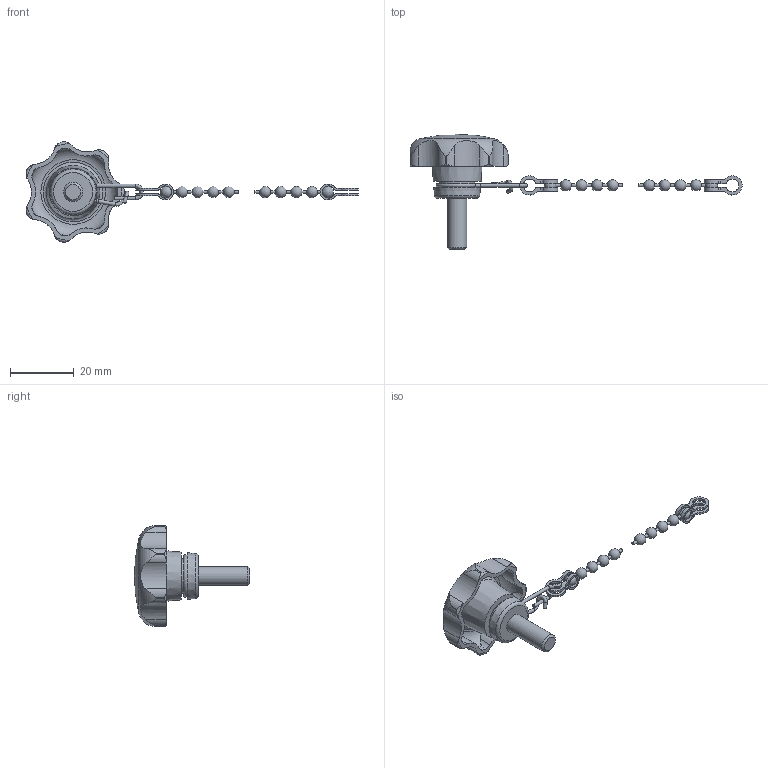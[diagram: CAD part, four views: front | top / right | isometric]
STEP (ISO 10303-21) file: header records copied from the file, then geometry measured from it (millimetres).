
FILE_DESCRIPTION( ( 'STEP AP203' ), '1' );
FILE_NAME( 'C:/Temp/Ganter_Step_05_03_2020/data/2_2/gn_6336_13/gn_6336_13_2/Star knob GN 6336.13-32-M6-16-K.stp', '2020-03-05T12:12:08', ( 'License CC BY-ND 4.0' ), ( 'CADENAS' ), ' ', 'PARTsolutions', ' ' );
FILE_SCHEMA( ( 'CONFIG_CONTROL_DESIGN' ) );
Length unit declared in the file: millimetre
Products named in the file (3): Star knob GN 6336.13-32-M6-16-K; _Star knob GN 6336.13-32-M6-16-K 6; _Star knob GN 111.5-200-14 k2
Assembly tree (2 placements, depth 2):
  Star knob GN 6336.13-32-M6-16-K
    _Star knob GN 6336.13-32-M6-16-K 6
    _Star knob GN 111.5-200-14 k2
Bounding box: 103.76 x 36 x 31.36 mm (x, y, z)
Volume: 6464.5 mm3; surface area: 4640.1 mm2
Topology: 2 solids, 2 shells, 169 faces, 489 edges, 316 vertices
Faces by surface type: cylinder 103, plane 26, torus 18, sphere 11, cone 11
Full cylindrical faces by diameter (mm): 0.9 x10, 1.1 x4, 1.11 x1, 6 x1, 10.9 x1
Entity records: 6303 total; most frequent: CARTESIAN_POINT 2059, DIRECTION 865, ORIENTED_EDGE 846, EDGE_CURVE 423, AXIS2_PLACEMENT_3D 373, VERTEX_POINT 301, EDGE_LOOP 219, FACE_OUTER_BOUND 204
